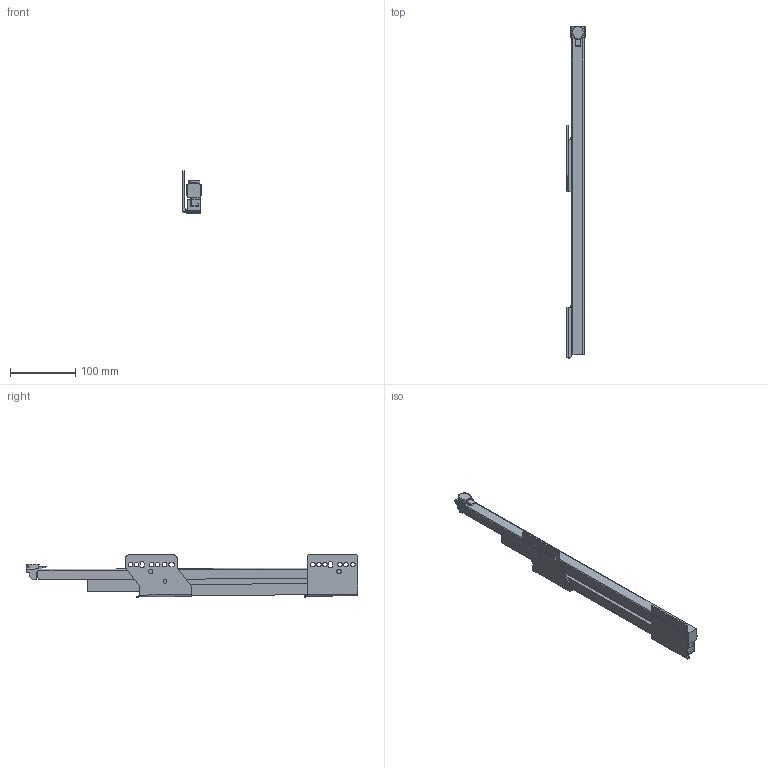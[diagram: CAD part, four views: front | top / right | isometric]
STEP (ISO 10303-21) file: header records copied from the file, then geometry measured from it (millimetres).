
FILE_DESCRIPTION (( 'STEP AP214' ), '1' );
FILE_NAME ('_IMOS_NOVA-Pro_KS_TL_EB29mm_LI_NL500.step', '2010-07-15T11:34:42', ( 'grass' ), ( '' ), 'SwSTEP 2.0', 'SolidWorks 2009', '' );
FILE_SCHEMA (( 'AUTOMOTIVE_DESIGN' ));
Length unit declared in the file: millimetre
Products named in the file (1): _IMOS_NOVA-Pro_KS_TL_EB29mm_LI_NL500
Bounding box: 27.9 x 507.46 x 64.46 mm (x, y, z)
Volume: 340920.9 mm3; surface area: 142757 mm2
Topology: 8 solids, 8 shells, 185 faces, 496 edges, 328 vertices
Faces by surface type: plane 116, cylinder 64, torus 5
Entity records: 5964 total; most frequent: CARTESIAN_POINT 1097, ORIENTED_EDGE 992, DIRECTION 972, EDGE_CURVE 496, LINE 350, VECTOR 350, VERTEX_POINT 328, AXIS2_PLACEMENT_3D 311
